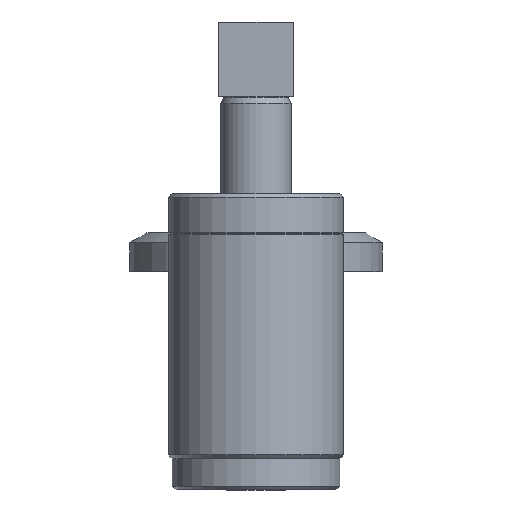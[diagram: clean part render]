
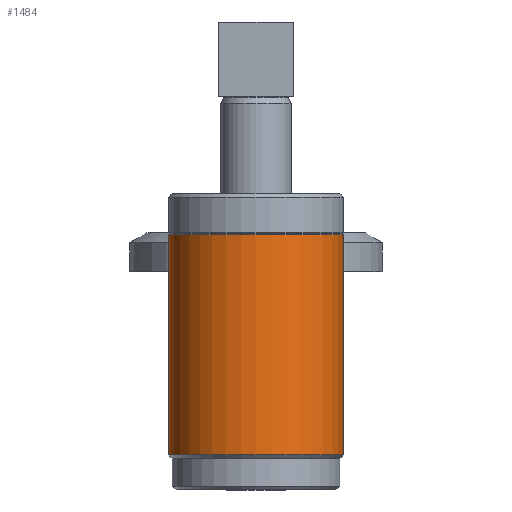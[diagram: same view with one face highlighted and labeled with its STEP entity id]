
A CAD part, left-side view. The second image highlights one B-rep face of the part: STEP entity #1484.
In plain terms, the highlighted cylindrical face has radius 22.5 mm (diameter 45 mm), a full revolution.
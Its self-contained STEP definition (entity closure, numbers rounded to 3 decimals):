
#71=CYLINDRICAL_SURFACE('',#2045,22.5);
#357=CIRCLE('',#2044,22.5);
#358=CIRCLE('',#2046,22.5);
#711=ORIENTED_EDGE('',*,*,#892,.F.);
#712=ORIENTED_EDGE('',*,*,#891,.T.);
#891=EDGE_CURVE('',#1019,#1019,#357,.T.);
#892=EDGE_CURVE('',#1020,#1020,#358,.T.);
#1019=VERTEX_POINT('',#3122);
#1020=VERTEX_POINT('',#3125);
#1211=EDGE_LOOP('',(#711));
#1212=EDGE_LOOP('',(#712));
#1371=FACE_BOUND('',#1211,.T.);
#1372=FACE_BOUND('',#1212,.T.);
#1484=ADVANCED_FACE('',(#1371,#1372),#71,.T.);
#2044=AXIS2_PLACEMENT_3D('',#3121,#2457,#2458);
#2045=AXIS2_PLACEMENT_3D('',#3123,#2459,#2460);
#2046=AXIS2_PLACEMENT_3D('',#3124,#2461,#2462);
#2457=DIRECTION('',(0.,0.,1.));
#2458=DIRECTION('',(1.,0.,0.));
#2459=DIRECTION('',(0.,0.,1.));
#2460=DIRECTION('',(1.,0.,0.));
#2461=DIRECTION('',(0.,0.,1.));
#2462=DIRECTION('',(1.,0.,0.));
#3121=CARTESIAN_POINT('',(0.,0.,9.));
#3122=CARTESIAN_POINT('',(22.5,0.,9.));
#3123=CARTESIAN_POINT('',(0.,0.,134.4));
#3124=CARTESIAN_POINT('',(0.,0.,65.5));
#3125=CARTESIAN_POINT('',(22.5,0.,65.5));
